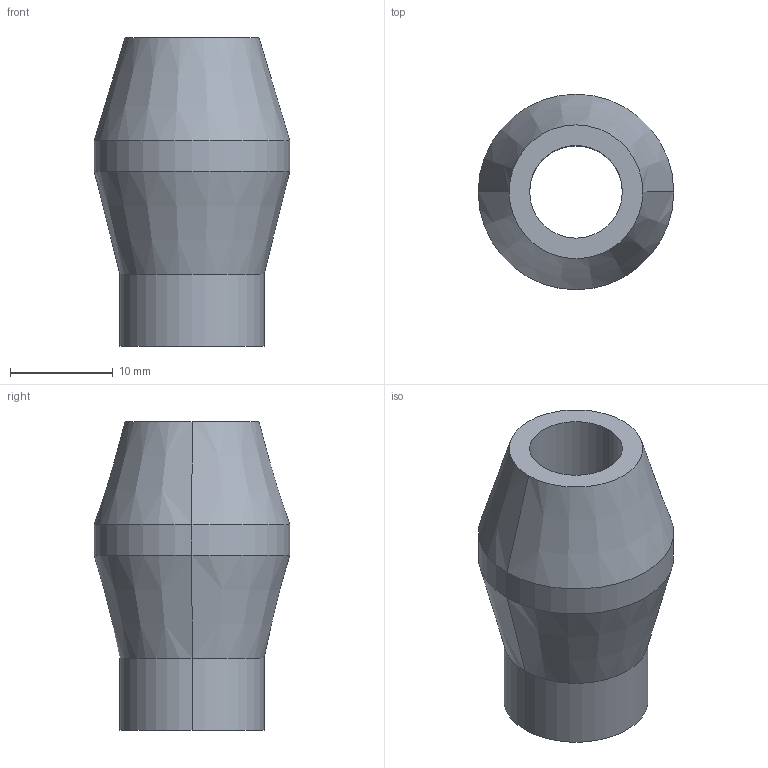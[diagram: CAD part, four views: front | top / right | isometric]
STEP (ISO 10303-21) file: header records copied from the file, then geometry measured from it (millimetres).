
FILE_DESCRIPTION(/* description */ (''),/* implementation_level */ '2;1');
FILE_NAME(/* name */ '3d_su14_07095_r00.stp',/* time_stamp */ '2011-01-10T14:09:29+09:00',/* author */ ('MISUMI'),/* organization */ (''),/* preprocessor_version */ 'ST-DEVELOPER v11',/* originating_system */ 'UGS - NX 5.0',/* authorisation */ '');
FILE_SCHEMA (('CONFIG_CONTROL_DESIGN'));
Length unit declared in the file: millimetre
Products named in the file (1): 3d_su14_07095_r00
Bounding box: 19 x 19 x 30 mm (x, y, z)
Volume: 4208.4 mm3; surface area: 2553.7 mm2
Topology: 1 solids, 1 shells, 12 faces, 24 edges, 14 vertices
Faces by surface type: cylinder 6, cone 4, plane 2
Entity records: 404 total; most frequent: DIRECTION 64, CARTESIAN_POINT 51, ORIENTED_EDGE 48, AXIS2_PLACEMENT_3D 27, EDGE_CURVE 24, EDGE_LOOP 14, CIRCLE 14, VERTEX_POINT 14
